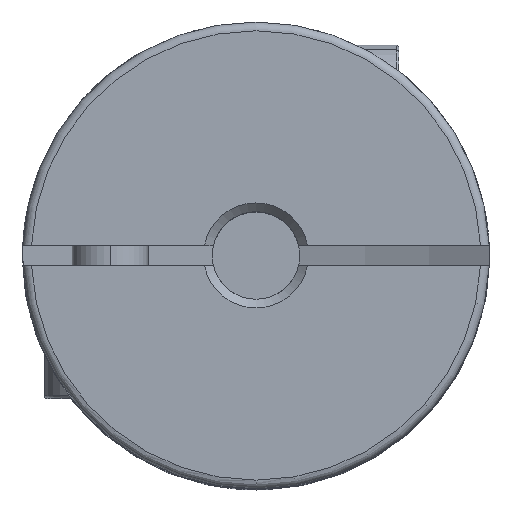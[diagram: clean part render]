
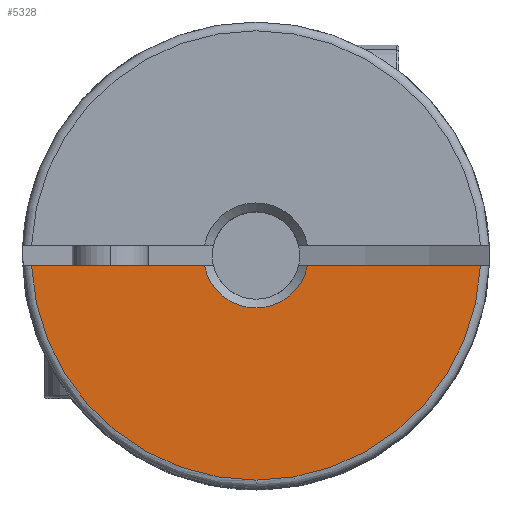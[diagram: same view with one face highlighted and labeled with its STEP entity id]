
A CAD part, top view. The second image highlights one B-rep face of the part: STEP entity #5328.
In plain terms, the highlighted planar face has unit normal (0, 0, 1).
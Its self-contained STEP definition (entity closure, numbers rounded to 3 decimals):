
#796 = DIRECTION ( 'NONE',  ( -1., 0., 0. ) ) ;
#812 = AXIS2_PLACEMENT_3D ( 'NONE', #2083, #2084, #2085 ) ;
#813 = AXIS2_PLACEMENT_3D ( 'NONE', #7249, #7251, #796 ) ;
#1151 = AXIS2_PLACEMENT_3D ( 'NONE', #5646, #5651, #5652 ) ;
#1205 = EDGE_CURVE ( 'NONE', #1779, #6877, #4351, .T. ) ;
#1206 = EDGE_CURVE ( 'NONE', #6907, #6857, #4352, .T. ) ;
#1207 = EDGE_CURVE ( 'NONE', #6907, #6877, #4354, .T. ) ;
#1213 = EDGE_CURVE ( 'NONE', #1779, #6857, #4361, .T. ) ;
#1445 = CARTESIAN_POINT ( 'NONE',  ( -1.766, -0.35, 11.95 ) ) ;
#1455 = CARTESIAN_POINT ( 'NONE',  ( 7.692, -0.35, 11.95 ) ) ;
#1469 = CARTESIAN_POINT ( 'NONE',  ( 1.766, -0.35, 11.95 ) ) ;
#1649 = EDGE_LOOP ( 'NONE', ( #7078, #7080, #7081, #7085 ) ) ;
#1779 = VERTEX_POINT ( 'NONE', #6543 ) ;
#1966 = FACE_OUTER_BOUND ( 'NONE', #1649, .T. ) ;
#2083 = CARTESIAN_POINT ( 'NONE',  ( 0., 0., 11.95 ) ) ;
#2084 = DIRECTION ( 'NONE',  ( 0., 0., -1. ) ) ;
#2085 = DIRECTION ( 'NONE',  ( -1., 0., 0. ) ) ;
#2102 = CARTESIAN_POINT ( 'NONE',  ( -8., -0.35, 11.95 ) ) ;
#2104 = DIRECTION ( 'NONE',  ( 1., 0., 0. ) ) ;
#2626 = CARTESIAN_POINT ( 'NONE',  ( -8., -0.35, 11.95 ) ) ;
#2627 = DIRECTION ( 'NONE',  ( 1., 0., 0. ) ) ;
#4351 = CIRCLE ( 'NONE', #813, 7.7 ) ;
#4352 = CIRCLE ( 'NONE', #812, 1.8 ) ;
#4354 = LINE ( 'NONE', #2626, #4357 ) ;
#4357 = VECTOR ( 'NONE', #2627, 1000. ) ;
#4361 = LINE ( 'NONE', #2102, #4363 ) ;
#4363 = VECTOR ( 'NONE', #2104, 1000. ) ;
#5328 = ADVANCED_FACE ( 'NONE', ( #1966 ), #5647, .F. ) ;
#5646 = CARTESIAN_POINT ( 'NONE',  ( 0., 0., 11.95 ) ) ;
#5647 = PLANE ( 'NONE',  #1151 ) ;
#5651 = DIRECTION ( 'NONE',  ( 0., 0., -1. ) ) ;
#5652 = DIRECTION ( 'NONE',  ( -1., 0., 0. ) ) ;
#6543 = CARTESIAN_POINT ( 'NONE',  ( -7.692, -0.35, 11.95 ) ) ;
#6857 = VERTEX_POINT ( 'NONE', #1445 ) ;
#6877 = VERTEX_POINT ( 'NONE', #1455 ) ;
#6907 = VERTEX_POINT ( 'NONE', #1469 ) ;
#7078 = ORIENTED_EDGE ( 'NONE', *, *, #1207, .F. ) ;
#7080 = ORIENTED_EDGE ( 'NONE', *, *, #1206, .T. ) ;
#7081 = ORIENTED_EDGE ( 'NONE', *, *, #1213, .F. ) ;
#7085 = ORIENTED_EDGE ( 'NONE', *, *, #1205, .T. ) ;
#7249 = CARTESIAN_POINT ( 'NONE',  ( 0., 0., 11.95 ) ) ;
#7251 = DIRECTION ( 'NONE',  ( 0., 0., 1. ) ) ;
